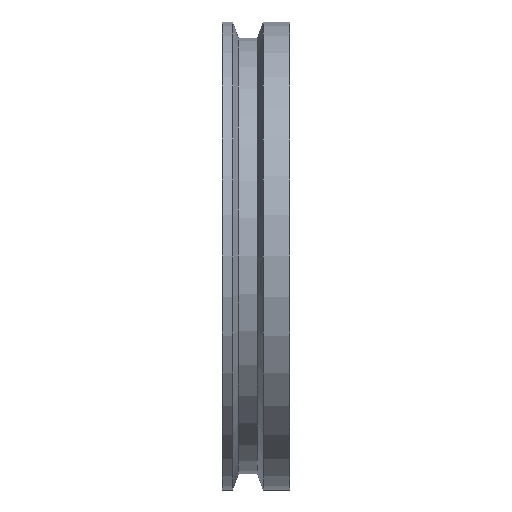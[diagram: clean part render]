
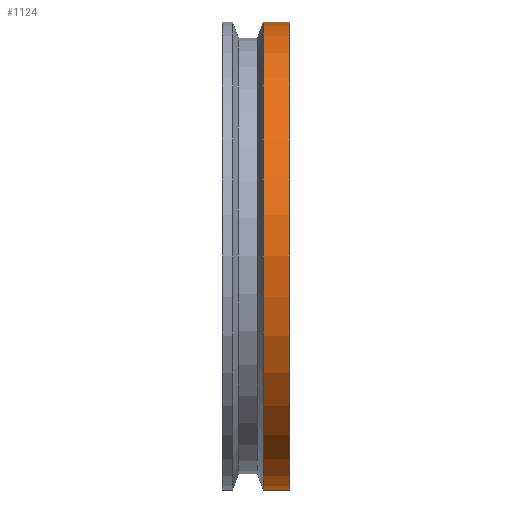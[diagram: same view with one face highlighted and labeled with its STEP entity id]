
A CAD part, front view. The second image highlights one B-rep face of the part: STEP entity #1124.
In plain terms, the highlighted cylindrical face has radius 72.5 mm (diameter 145 mm), a full revolution.
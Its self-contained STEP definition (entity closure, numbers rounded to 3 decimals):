
#71=FACE_OUTER_BOUND('',#143,.T.);
#143=EDGE_LOOP('',(#846,#847,#848,#849,#850));
#222=LINE('',#1895,#303);
#303=VECTOR('',#1520,72.5);
#361=CIRCLE('',#1194,72.5);
#401=CIRCLE('',#1237,72.5);
#402=CIRCLE('',#1238,72.5);
#449=VERTEX_POINT('',#1738);
#501=VERTEX_POINT('',#1847);
#502=VERTEX_POINT('',#1848);
#564=EDGE_CURVE('',#449,#449,#361,.T.);
#618=EDGE_CURVE('',#501,#502,#401,.T.);
#620=EDGE_CURVE('',#502,#501,#402,.T.);
#642=EDGE_CURVE('',#502,#449,#222,.T.);
#846=ORIENTED_EDGE('',*,*,#618,.T.);
#847=ORIENTED_EDGE('',*,*,#642,.T.);
#848=ORIENTED_EDGE('',*,*,#564,.F.);
#849=ORIENTED_EDGE('',*,*,#642,.F.);
#850=ORIENTED_EDGE('',*,*,#620,.T.);
#1073=CYLINDRICAL_SURFACE('',#1258,72.5);
#1124=ADVANCED_FACE('',(#71),#1073,.T.);
#1194=AXIS2_PLACEMENT_3D('',#1739,#1363,#1364);
#1237=AXIS2_PLACEMENT_3D('',#1849,#1463,#1464);
#1238=AXIS2_PLACEMENT_3D('',#1851,#1466,#1467);
#1258=AXIS2_PLACEMENT_3D('',#1894,#1518,#1519);
#1363=DIRECTION('center_axis',(1.,0.,0.));
#1364=DIRECTION('ref_axis',(0.,1.,0.));
#1463=DIRECTION('center_axis',(1.,0.,0.));
#1464=DIRECTION('ref_axis',(0.,1.,0.));
#1466=DIRECTION('center_axis',(1.,0.,0.));
#1467=DIRECTION('ref_axis',(0.,1.,0.));
#1518=DIRECTION('center_axis',(-1.,0.,0.));
#1519=DIRECTION('ref_axis',(0.,1.,0.));
#1520=DIRECTION('',(1.,0.,0.));
#1738=CARTESIAN_POINT('',(13.,-281.5,0.));
#1739=CARTESIAN_POINT('Origin',(13.,-209.,0.));
#1847=CARTESIAN_POINT('',(4.75,-136.5,0.));
#1848=CARTESIAN_POINT('',(4.75,-281.5,0.));
#1849=CARTESIAN_POINT('Origin',(4.75,-209.,0.));
#1851=CARTESIAN_POINT('Origin',(4.75,-209.,0.));
#1894=CARTESIAN_POINT('Origin',(0.,-209.,0.));
#1895=CARTESIAN_POINT('',(0.,-281.5,0.));
